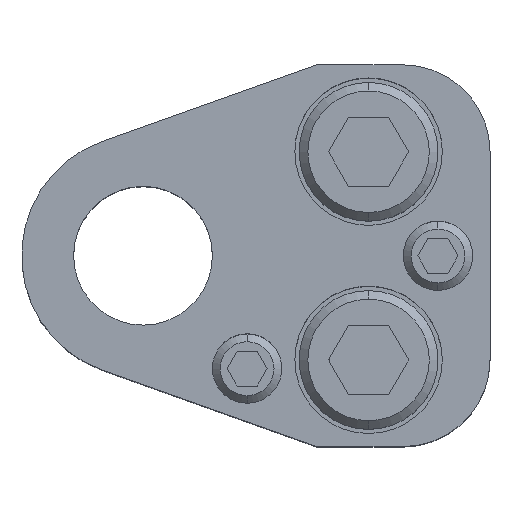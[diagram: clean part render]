
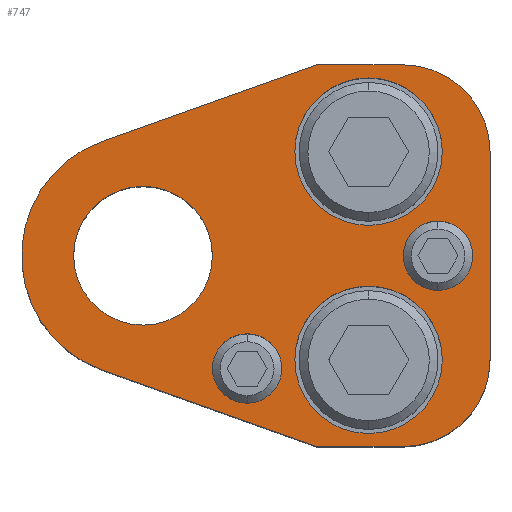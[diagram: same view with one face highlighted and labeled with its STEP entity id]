
A CAD part, top view. The second image highlights one B-rep face of the part: STEP entity #747.
In plain terms, the highlighted planar face has unit normal (0, 0, 1).
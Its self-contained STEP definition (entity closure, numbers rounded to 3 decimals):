
#429=LINE('',#3637,#593);
#433=LINE('',#3646,#597);
#437=LINE('',#3658,#601);
#441=LINE('',#3670,#605);
#444=LINE('',#3676,#608);
#593=VECTOR('',#2930,1.);
#597=VECTOR('',#2936,1.);
#601=VECTOR('',#2948,1.);
#605=VECTOR('',#2960,1.);
#608=VECTOR('',#2965,1.);
#747=ADVANCED_FACE('',(#853,#854,#855,#856,#857,#858),#823,.T.);
#823=PLANE('',#2443);
#853=FACE_BOUND('',#997,.T.);
#854=FACE_BOUND('',#998,.T.);
#855=FACE_BOUND('',#999,.T.);
#856=FACE_BOUND('',#1000,.T.);
#857=FACE_BOUND('',#1001,.T.);
#858=FACE_BOUND('',#1002,.T.);
#997=EDGE_LOOP('',(#1511,#1512,#1513,#1514,#1515,#1516,#1517,#1518));
#998=EDGE_LOOP('',(#1519,#1520));
#999=EDGE_LOOP('',(#1521,#1522));
#1000=EDGE_LOOP('',(#1523,#1524));
#1001=EDGE_LOOP('',(#1525,#1526));
#1002=EDGE_LOOP('',(#1527,#1528));
#1511=ORIENTED_EDGE('',*,*,#2004,.T.);
#1512=ORIENTED_EDGE('',*,*,#2008,.T.);
#1513=ORIENTED_EDGE('',*,*,#2011,.T.);
#1514=ORIENTED_EDGE('',*,*,#2014,.T.);
#1515=ORIENTED_EDGE('',*,*,#2017,.T.);
#1516=ORIENTED_EDGE('',*,*,#2020,.T.);
#1517=ORIENTED_EDGE('',*,*,#2023,.T.);
#1518=ORIENTED_EDGE('',*,*,#2026,.T.);
#1519=ORIENTED_EDGE('',*,*,#2061,.F.);
#1520=ORIENTED_EDGE('',*,*,#2062,.F.);
#1521=ORIENTED_EDGE('',*,*,#2063,.F.);
#1522=ORIENTED_EDGE('',*,*,#2064,.F.);
#1523=ORIENTED_EDGE('',*,*,#2051,.F.);
#1524=ORIENTED_EDGE('',*,*,#2047,.F.);
#1525=ORIENTED_EDGE('',*,*,#2045,.F.);
#1526=ORIENTED_EDGE('',*,*,#2041,.F.);
#1527=ORIENTED_EDGE('',*,*,#2065,.T.);
#1528=ORIENTED_EDGE('',*,*,#2066,.T.);
#1744=VERTEX_POINT('',#3636);
#1745=VERTEX_POINT('',#3638);
#1748=VERTEX_POINT('',#3645);
#1750=VERTEX_POINT('',#3651);
#1752=VERTEX_POINT('',#3657);
#1754=VERTEX_POINT('',#3663);
#1756=VERTEX_POINT('',#3669);
#1758=VERTEX_POINT('',#3675);
#1771=VERTEX_POINT('',#3712);
#1772=VERTEX_POINT('',#3713);
#1775=VERTEX_POINT('',#3724);
#1776=VERTEX_POINT('',#3725);
#1783=VERTEX_POINT('',#3752);
#1784=VERTEX_POINT('',#3753);
#1785=VERTEX_POINT('',#3756);
#1786=VERTEX_POINT('',#3757);
#1787=VERTEX_POINT('',#3760);
#1788=VERTEX_POINT('',#3761);
#2004=EDGE_CURVE('',#1745,#1744,#429,.T.);
#2008=EDGE_CURVE('',#1744,#1748,#433,.T.);
#2011=EDGE_CURVE('',#1748,#1750,#2171,.T.);
#2014=EDGE_CURVE('',#1750,#1752,#437,.T.);
#2017=EDGE_CURVE('',#1752,#1754,#2173,.T.);
#2020=EDGE_CURVE('',#1754,#1756,#441,.T.);
#2023=EDGE_CURVE('',#1756,#1758,#444,.T.);
#2026=EDGE_CURVE('',#1758,#1745,#2176,.T.);
#2041=EDGE_CURVE('',#1771,#1772,#2189,.T.);
#2045=EDGE_CURVE('',#1772,#1771,#2191,.T.);
#2047=EDGE_CURVE('',#1775,#1776,#2193,.T.);
#2051=EDGE_CURVE('',#1776,#1775,#2195,.T.);
#2061=EDGE_CURVE('',#1783,#1784,#2201,.T.);
#2062=EDGE_CURVE('',#1784,#1783,#2202,.T.);
#2063=EDGE_CURVE('',#1785,#1786,#2203,.T.);
#2064=EDGE_CURVE('',#1786,#1785,#2204,.T.);
#2065=EDGE_CURVE('',#1787,#1788,#2205,.T.);
#2066=EDGE_CURVE('',#1788,#1787,#2206,.T.);
#2171=CIRCLE('',#2390,10.);
#2173=CIRCLE('',#2394,10.);
#2176=CIRCLE('',#2400,14.);
#2189=CIRCLE('',#2417,4.);
#2191=CIRCLE('',#2420,4.);
#2193=CIRCLE('',#2423,4.);
#2195=CIRCLE('',#2426,4.);
#2201=CIRCLE('',#2437,8.5);
#2202=CIRCLE('',#2438,8.5);
#2203=CIRCLE('',#2439,8.5);
#2204=CIRCLE('',#2440,8.5);
#2205=CIRCLE('',#2441,8.);
#2206=CIRCLE('',#2442,8.);
#2390=AXIS2_PLACEMENT_3D('',#3652,#2941,#2942);
#2394=AXIS2_PLACEMENT_3D('',#3664,#2953,#2954);
#2400=AXIS2_PLACEMENT_3D('',#3680,#2971,#2972);
#2417=AXIS2_PLACEMENT_3D('',#3711,#3007,#3008);
#2420=AXIS2_PLACEMENT_3D('',#3720,#3015,#3016);
#2423=AXIS2_PLACEMENT_3D('',#3723,#3021,#3022);
#2426=AXIS2_PLACEMENT_3D('',#3732,#3029,#3030);
#2437=AXIS2_PLACEMENT_3D('',#3751,#3055,#3056);
#2438=AXIS2_PLACEMENT_3D('',#3754,#3057,#3058);
#2439=AXIS2_PLACEMENT_3D('',#3755,#3059,#3060);
#2440=AXIS2_PLACEMENT_3D('',#3758,#3061,#3062);
#2441=AXIS2_PLACEMENT_3D('',#3759,#3063,#3064);
#2442=AXIS2_PLACEMENT_3D('',#3762,#3065,#3066);
#2443=AXIS2_PLACEMENT_3D('',#3763,#3067,#3068);
#2930=DIRECTION('',(0.942,-0.336,0.));
#2936=DIRECTION('',(1.,0.,0.));
#2941=DIRECTION('',(0.,0.,1.));
#2942=DIRECTION('',(-0.707,0.707,0.));
#2948=DIRECTION('',(0.,1.,0.));
#2953=DIRECTION('',(0.,0.,1.));
#2954=DIRECTION('',(-0.707,-0.707,0.));
#2960=DIRECTION('',(-1.,0.,0.));
#2965=DIRECTION('',(-0.942,-0.336,0.));
#2971=DIRECTION('',(0.,0.,1.));
#2972=DIRECTION('',(1.,0.,0.));
#3007=DIRECTION('',(0.,0.,1.));
#3008=DIRECTION('',(-1.,0.,0.));
#3015=DIRECTION('',(0.,0.,1.));
#3016=DIRECTION('',(1.,0.,0.));
#3021=DIRECTION('',(0.,0.,1.));
#3022=DIRECTION('',(-1.,0.,0.));
#3029=DIRECTION('',(0.,0.,1.));
#3030=DIRECTION('',(1.,0.,0.));
#3055=DIRECTION('',(0.,0.,1.));
#3056=DIRECTION('',(1.,0.,0.));
#3057=DIRECTION('',(0.,0.,1.));
#3058=DIRECTION('',(-1.,0.,0.));
#3059=DIRECTION('',(0.,0.,1.));
#3060=DIRECTION('',(1.,0.,0.));
#3061=DIRECTION('',(0.,0.,1.));
#3062=DIRECTION('',(-1.,0.,0.));
#3063=DIRECTION('',(0.,0.,-1.));
#3064=DIRECTION('',(-1.,0.,0.));
#3065=DIRECTION('',(0.,0.,-1.));
#3066=DIRECTION('',(1.,0.,0.));
#3067=DIRECTION('',(0.,0.,1.));
#3068=DIRECTION('',(0.942,-0.336,0.));
#3636=CARTESIAN_POINT('',(20.,-22.,35.));
#3637=CARTESIAN_POINT('',(20.,-22.,35.));
#3638=CARTESIAN_POINT('',(-4.704,-13.186,35.));
#3645=CARTESIAN_POINT('',(30.,-22.,35.));
#3646=CARTESIAN_POINT('',(20.,-22.,35.));
#3651=CARTESIAN_POINT('',(40.,-12.,35.));
#3652=CARTESIAN_POINT('',(30.,-12.,35.));
#3657=CARTESIAN_POINT('',(40.,12.,35.));
#3658=CARTESIAN_POINT('',(40.,12.,35.));
#3663=CARTESIAN_POINT('',(30.,22.,35.));
#3664=CARTESIAN_POINT('',(30.,12.,35.));
#3669=CARTESIAN_POINT('',(20.,22.,35.));
#3670=CARTESIAN_POINT('',(20.,22.,35.));
#3675=CARTESIAN_POINT('',(-4.704,13.186,35.));
#3676=CARTESIAN_POINT('',(20.,22.,35.));
#3680=CARTESIAN_POINT('',(0.,0.,35.));
#3711=CARTESIAN_POINT('',(12.,-13.,35.));
#3712=CARTESIAN_POINT('',(12.,-17.,35.));
#3713=CARTESIAN_POINT('',(12.,-9.,35.));
#3720=CARTESIAN_POINT('',(12.,-13.,35.));
#3723=CARTESIAN_POINT('',(34.,0.,35.));
#3724=CARTESIAN_POINT('',(34.,-4.,35.));
#3725=CARTESIAN_POINT('',(34.,4.,35.));
#3732=CARTESIAN_POINT('',(34.,0.,35.));
#3751=CARTESIAN_POINT('',(26.,12.,35.));
#3752=CARTESIAN_POINT('',(26.,20.5,35.));
#3753=CARTESIAN_POINT('',(26.,3.5,35.));
#3754=CARTESIAN_POINT('',(26.,12.,35.));
#3755=CARTESIAN_POINT('',(26.,-12.,35.));
#3756=CARTESIAN_POINT('',(26.,-3.5,35.));
#3757=CARTESIAN_POINT('',(26.,-20.5,35.));
#3758=CARTESIAN_POINT('',(26.,-12.,35.));
#3759=CARTESIAN_POINT('',(0.,0.,35.));
#3760=CARTESIAN_POINT('',(0.,8.,35.));
#3761=CARTESIAN_POINT('',(0.,-8.,35.));
#3762=CARTESIAN_POINT('',(0.,0.,35.));
#3763=CARTESIAN_POINT('',(-4.704,-13.186,35.));
